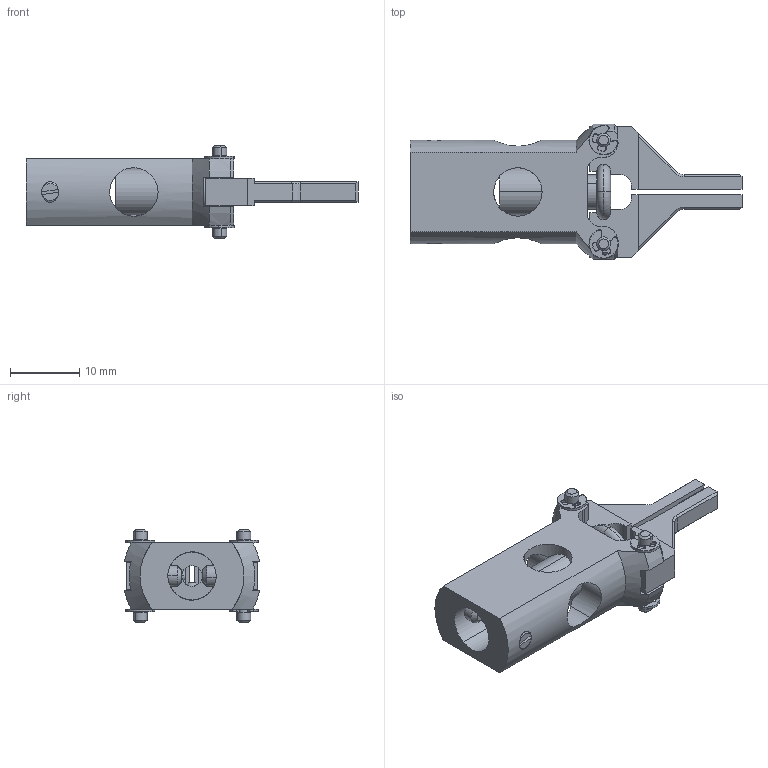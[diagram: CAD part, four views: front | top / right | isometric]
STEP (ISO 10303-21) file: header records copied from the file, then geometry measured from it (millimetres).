
FILE_DESCRIPTION(('CATIA V5 STEP Exchange'),'2;1');
FILE_NAME('W:\KONSTRUKTION\PRODUCTS\PG\PGWMS(OMUSLIMLTA)\PGWMS(OMUSLIMLTA).stp','2021-08-30T11:42:13+00:00',('none'),('none'),'CATIA Version 5 Release 21 GA (IN-10)','CATIA V5 STEP AP203','none');
FILE_SCHEMA(('CONFIG_CONTROL_DESIGN'));
Length unit declared in the file: millimetre
Products named in the file (1): PGWMS(OMUSLIMLTA)
Bounding box: 48 x 19.55 x 13.4 mm (x, y, z)
Volume: 3371.6 mm3; surface area: 3649.5 mm2
Topology: 1 solids, 1 shells, 453 faces, 1216 edges, 769 vertices
Faces by surface type: cylinder 164, plane 159, torus 76, cone 54
Entity records: 13913 total; most frequent: CARTESIAN_POINT 3166, ORIENTED_EDGE 2424, DIRECTION 1829, EDGE_CURVE 1212, AXIS2_PLACEMENT_3D 969, VERTEX_POINT 769, CIRCLE 595, VECTOR 488
